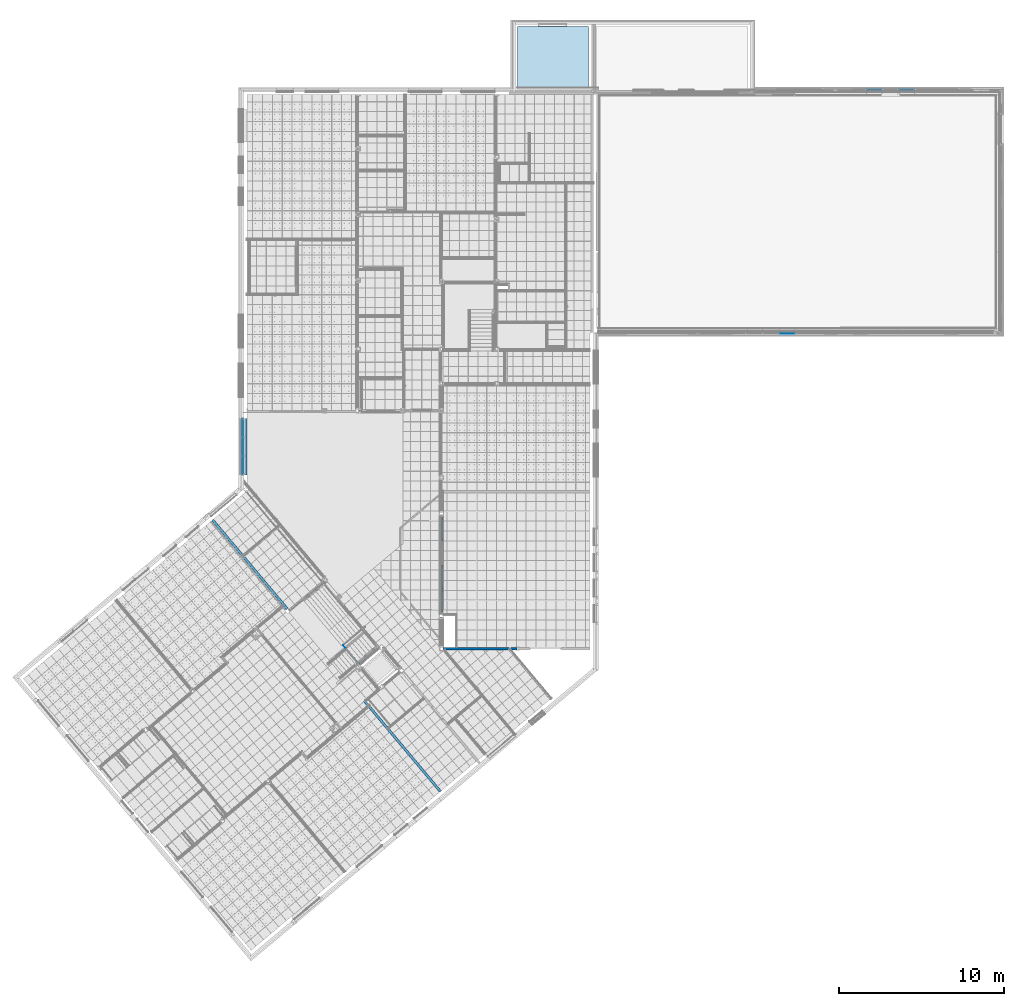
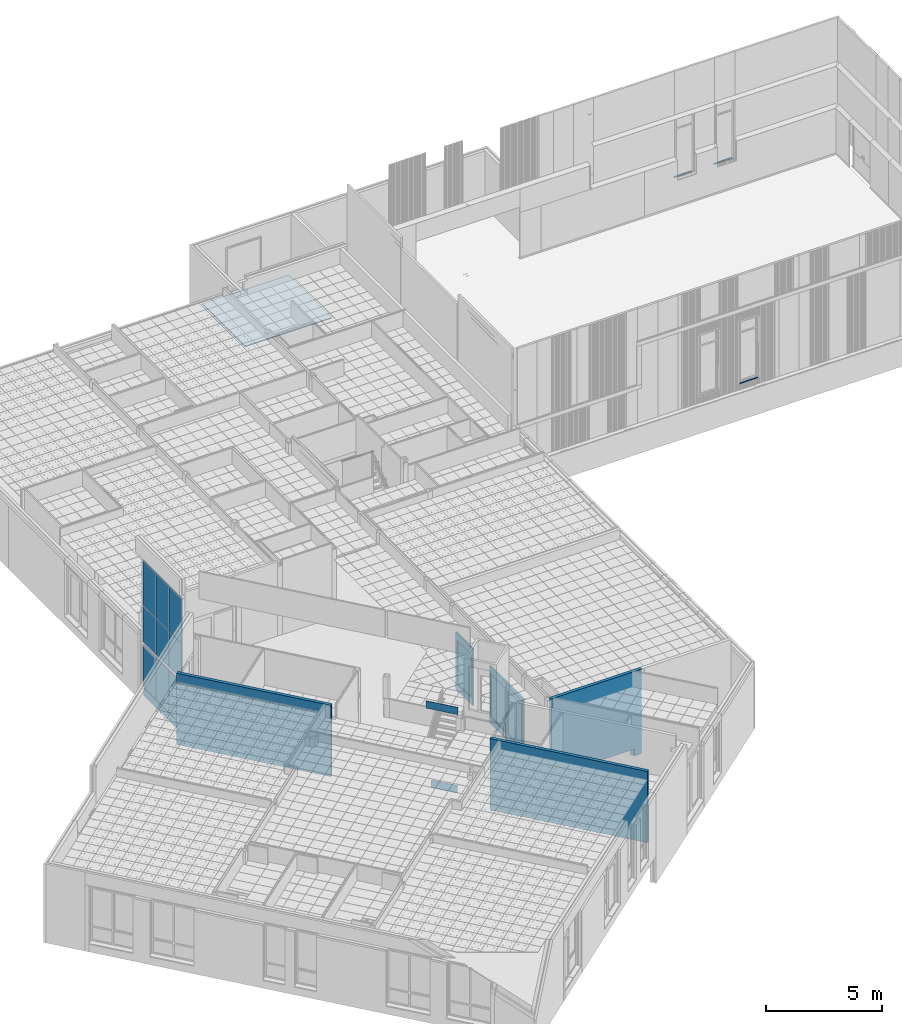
# One storey, part 5 of 338: 12 walls, 9 plates, 3 beams, 1 slab, 3 openings, 1 element without a shape of its own.
"""IFC2X3 building model written with IfcOpenShell, lengths in millimetres."""

from ifc_helpers import new_model, entity, si_unit, converted_unit, derived_unit, money_unit, direction, frame, origin_with_axes, place, context, subcontext, project, spatial, open_shell, faceted_brep, surface_model, source, transform, mapped, material, type_object, type_shapes, element, fill, aggregate, save


model = new_model("IFC2X3")

# Units and contexts
model_context = context("Model", 3, precision=0.01, world=origin_with_axes(), true_north=direction((0.0, 1.0)))
plan_context = context("Plan", 3, precision=0.01, world=origin_with_axes(), true_north=direction((0.0, 1.0)))
body_context = subcontext(model_context, "Body", "Model", "MODEL_VIEW")
ifc_project = project(units=[si_unit("LENGTHUNIT", "METRE", prefix="MILLI"), si_unit("AREAUNIT", "SQUARE_METRE"), si_unit("VOLUMEUNIT", "CUBIC_METRE"), converted_unit("PLANEANGLEUNIT", "DEGREE", entity("IfcPlaneAngleMeasure", 0.0174532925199), si_unit("PLANEANGLEUNIT", "RADIAN"), dimensions=[0, 0, 0, 0, 0, 0, 0]), money_unit("EUR"), converted_unit("TIMEUNIT", "Year", entity("IfcTimeMeasure", 31556926.0), si_unit("TIMEUNIT", "SECOND"), dimensions=[0, 0, 1, 0, 0, 0, 0]), si_unit("MASSUNIT", "GRAM", prefix="KILO"), si_unit("THERMODYNAMICTEMPERATUREUNIT", "DEGREE_CELSIUS"), si_unit("LUMINOUSINTENSITYUNIT", "LUMEN"), si_unit("ENERGYUNIT", "JOULE", prefix="MEGA"), derived_unit("THERMALCONDUCTANCEUNIT", [(si_unit("POWERUNIT", "WATT"), 1), (si_unit("LENGTHUNIT", "METRE"), -1), (si_unit("THERMODYNAMICTEMPERATUREUNIT", "KELVIN"), -1)]), derived_unit("SPECIFICHEATCAPACITYUNIT", [(si_unit("ENERGYUNIT", "JOULE"), 1), (si_unit("MASSUNIT", "GRAM", prefix="KILO"), -1), (si_unit("THERMODYNAMICTEMPERATUREUNIT", "KELVIN"), -1)]), derived_unit("MASSDENSITYUNIT", [(si_unit("MASSUNIT", "GRAM", prefix="KILO"), 1), (si_unit("VOLUMEUNIT", "CUBIC_METRE"), -1)])], contexts=[model_context, plan_context])

# Site, building, storey
site_placement = place(None, origin_with_axes())
site = spatial("IfcSite", under=ifc_project, at=site_placement, Name="Fortuinstraat Woensdrecht", CompositionType="ELEMENT")
building_placement = place(site_placement, origin_with_axes())
building = spatial("IfcBuilding", under=site, at=building_placement, Name="IKC Fortuna", CompositionType="ELEMENT")
storey_placement = place(building_placement, origin_with_axes())
storey = spatial("IfcBuildingStorey", under=building, at=storey_placement, Name="00 begane grond", CompositionType="ELEMENT", Elevation=0.0)

# Beams
ifc_material_1 = material(Name="Metaal - Aluminium")
beam_type = type_object("IfcBeamType", Name="41 Zetwerk SW o 74 x 109", PredefinedType="BEAM")
beam_1_placement = place(storey_placement, frame((54293.4270571, 35582.2966282, 1425.00730789), z_axis=(0.0, 0.0, 1.0), x_axis=(0.0, 1.0, 0.0)))
element("IfcBeam", 1, at=beam_1_placement, inside=storey, type_object=beam_type, material=ifc_material_1, Name="28_Balk_UNP203", ObjectType="BEAM", context=body_context, shape_type="Brep", body=[
    faceted_brep([(55.0192825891, 0.0, -108.36843401), (55.0192825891, 920.0, -108.36843401), (51.000000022, 920.0, -108.369149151), (51.000000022, 0.0, -108.369149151), (55.0072059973, 0.0, -40.4947459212), (55.0072059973, 920.0, -40.4947459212), (51.000000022, 920.0, -39.4217824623), (51.000000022, 920.0, -38.3865556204), (56.0070694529, 920.0, -39.727241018), (56.0194605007, 920.0, -109.368256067), (51.000000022, 920.0, -109.369149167), (51.000000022, 0.0, -109.369149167), (56.0194605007, 0.0, -109.368256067), (56.0070694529, 0.0, -39.727241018), (51.000000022, 0.0, -38.3865556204), (51.000000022, 0.0, -39.4217824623)], [[[0, 1, 2, 3]], [[1, 0, 4, 5]], [[1, 5, 6, 7, 8, 9, 10, 2]], [[2, 10, 11, 3]], [[12, 13, 14, 15, 4, 0, 3, 11]], [[5, 4, 15, 6]], [[7, 6, 15, 14]], [[13, 8, 7, 14]], [[8, 13, 12, 9]], [[9, 12, 11, 10]]]),
])
beam_2_placement = place(storey_placement, frame((52308.4270171, 35582.2966282, 1425.0), z_axis=(0.0, 0.0, 1.0), x_axis=(0.0, 1.0, 0.0)))
element("IfcBeam", 2, at=beam_2_placement, inside=storey, type_object=beam_type, material=ifc_material_1, Name="28_Balk_UNP203", ObjectType="BEAM", context=body_context, shape_type="Brep", body=[
    faceted_brep([(55.0192825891, 0.0, -108.36843401), (55.0192825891, 919.999960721, -108.36843401), (51.000000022, 919.999960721, -108.369149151), (51.000000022, 0.0, -108.369149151), (55.0072059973, 0.0, -40.4947459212), (55.0072059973, 919.999960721, -40.4947459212), (51.000000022, 919.999960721, -39.4217824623), (51.000000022, 919.999960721, -38.3865556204), (56.0070694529, 919.999960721, -39.727241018), (56.0194605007, 919.999960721, -109.368256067), (51.000000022, 919.999960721, -109.369149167), (51.000000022, 0.0, -109.369149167), (56.0194605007, 0.0, -109.368256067), (56.0070694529, 0.0, -39.727241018), (51.000000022, 0.0, -38.3865556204), (51.000000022, 0.0, -39.4217824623)], [[[0, 1, 2, 3]], [[1, 0, 4, 5]], [[1, 5, 6, 7, 8, 9, 10, 2]], [[2, 10, 11, 3]], [[12, 13, 14, 15, 4, 0, 3, 11]], [[5, 4, 15, 6]], [[7, 6, 15, 14]], [[13, 8, 7, 14]], [[8, 13, 12, 9]], [[9, 12, 11, 10]]]),
])
beam_3_placement = place(storey_placement, frame((47043.4270571, 20910.3027434, 1419.99923315), z_axis=(0.0, 0.0, 1.0), x_axis=(0.0, 1.0, 0.0)))
element("IfcBeam", 3, at=beam_3_placement, inside=storey, type_object=beam_type, material=ifc_material_1, Name="28_Balk_UNP203", ObjectType="BEAM", context=body_context, shape_type="Brep", body=[
    faceted_brep([(-56.0061151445, 920.0, -109.368256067), (-56.0061151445, 922.190621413, -109.368256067), (-56.0070694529, 922.190621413, -39.727241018), (-56.0061151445, 920.0, -39.7269854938), (-56.0194605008, 0.0, -109.368256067), (-56.0194605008, 922.190621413, -109.368256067), (-55.9618218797, 920.0, -109.368256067), (-55.9618218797, 0.0, -109.368266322), (-56.0070694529, 0.0, -39.727241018), (-55.9618218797, 920.0, -39.7151255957), (-55.9618218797, 0.0, -39.7151255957)], [[[0, 1, 2, 3]], [[4, 5, 1, 0, 6, 7]], [[1, 5, 2]], [[3, 2, 5, 4, 8]], [[9, 6, 0, 3]], [[7, 6, 9, 10]], [[10, 8, 4, 7]], [[10, 9, 3, 8]]]),
])

# Curtain wall, plates
curtain_wall_type = type_object("IfcCurtainWallType", Name="Curtain Wall Type", PredefinedType="NOTDEFINED")
curtain_wall_placement = place(storey_placement, frame((13569.9121752, 15129.2768159, -0.000250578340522), z_axis=(0.0, 0.0, 1.0), x_axis=(1.0, 0.0, 0.0)))
curtain_wall = element("IfcCurtainWall", 4, at=curtain_wall_placement, inside=storey, type_object=curtain_wall_type, Name="21_Vliesgevel_Vliesgevel")
ifc_material_2 = material(Name="Glas")
plate_type_1 = type_object("IfcPlateType", Name="Main Panel 1095 x 2201 x 33", PredefinedType="CURTAIN_PANEL")
plate_1_placement = place(curtain_wall_placement, frame((0.0, -2253.86266477, 1118.25), z_axis=(0.0, 0.0, 1.0), x_axis=(0.0, 1.0, 0.0)))
plate_1 = element("IfcPlate", 5, at=plate_1_placement, type_object=plate_type_1, material=ifc_material_2, Name="_Vliesgevel - paneel_Paneel-x", ObjectType="CURTAIN_PANEL", context=body_context, shape_type="Brep", body=[
    faceted_brep([(-535.000045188, -16.5, 1113.24999506), (560.000036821, -16.5, 1113.24999506), (560.000036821, 16.5, 1113.24999506), (-535.000045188, 16.5, 1113.24999506), (-535.000045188, -16.5, -1088.25000369), (560.000036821, -16.5, -1088.25000369), (560.000036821, 16.5, -1088.25000369), (-535.000045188, 16.5, -1088.25000369)], [[[0, 1, 2, 3]], [[0, 4, 5, 1]], [[1, 5, 6, 2]], [[3, 2, 6, 7]], [[4, 0, 3, 7]], [[5, 4, 7, 6]]]),
])
plate_2_placement = place(curtain_wall_placement, frame((0.0, 0.0, 1118.25), z_axis=(0.0, 0.0, 1.0), x_axis=(0.0, 1.0, 0.0)))
plate_2 = element("IfcPlate", 6, at=plate_2_placement, type_object=plate_type_1, material=ifc_material_2, Name="_Vliesgevel - paneel_Paneel-x", ObjectType="CURTAIN_PANEL", context=body_context, shape_type="Brep", body=[
    faceted_brep([(-560.000011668, -16.5, 1113.24999506), (535.000003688, -16.5, 1113.24999506), (535.000003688, 16.5, 1113.24999506), (-560.000011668, 16.5, 1113.24999506), (-560.000011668, -16.5, -1088.25000369), (535.000003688, -16.5, -1088.25000369), (535.000003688, 16.5, -1088.25000369), (-560.000011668, 16.5, -1088.25000369)], [[[0, 1, 2, 3]], [[0, 4, 5, 1]], [[1, 5, 6, 2]], [[3, 2, 6, 7]], [[4, 0, 3, 7]], [[5, 4, 7, 6]]]),
])
plate_type_2 = type_object("IfcPlateType", Name="Main Panel 1114 x 2350 x 33", PredefinedType="CURTAIN_PANEL")
plate_3_placement = place(curtain_wall_placement, frame((0.0, -1126.9313115, 5455.0), z_axis=(0.0, 0.0, 1.0), x_axis=(0.0, 1.0, 0.0)))
plate_3 = element("IfcPlate", 7, at=plate_3_placement, type_object=plate_type_2, material=ifc_material_2, Name="_Vliesgevel - paneel_Paneel-x", ObjectType="CURTAIN_PANEL", context=body_context, shape_type="Brep", body=[
    faceted_brep([(-556.931322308, -16.5, 1174.99998808), (556.931299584, -16.5, 1174.99998808), (556.931299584, 16.5, 1174.99998808), (-556.931322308, 16.5, 1174.99998808), (-556.931322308, -16.5, -1174.99998808), (556.931299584, -16.5, -1174.99998808), (556.931299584, 16.5, -1174.99998808), (-556.931322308, 16.5, -1174.99998808)], [[[0, 1, 2, 3]], [[0, 4, 5, 1]], [[1, 5, 6, 2]], [[3, 2, 6, 7]], [[4, 0, 3, 7]], [[5, 4, 7, 6]]]),
])
plate_type_3 = type_object("IfcPlateType", Name="Main Panel 1114 x 2201 x 33", PredefinedType="CURTAIN_PANEL")
plate_4_placement = place(curtain_wall_placement, frame((0.0, -1126.9313115, 1118.25), z_axis=(0.0, 0.0, 1.0), x_axis=(0.0, 1.0, 0.0)))
plate_4 = element("IfcPlate", 8, at=plate_4_placement, type_object=plate_type_3, material=ifc_material_2, Name="_Vliesgevel - paneel_Paneel-x", ObjectType="CURTAIN_PANEL", context=body_context, shape_type="Brep", body=[
    faceted_brep([(-556.931295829, -16.5, 1113.24999506), (556.931306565, -16.5, 1113.24999506), (556.931306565, 16.5, 1113.24999506), (-556.931295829, 16.5, 1113.24999506), (-556.931295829, -16.5, -1088.25000369), (556.931306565, -16.5, -1088.25000369), (556.931306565, 16.5, -1088.25000369), (-556.931295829, 16.5, -1088.25000369)], [[[0, 1, 2, 3]], [[0, 4, 5, 1]], [[1, 5, 6, 2]], [[3, 2, 6, 7]], [[4, 0, 3, 7]], [[5, 4, 7, 6]]]),
])
plate_type_4 = type_object("IfcPlateType", Name="Main Panel 1095 x 1904 x 33", PredefinedType="CURTAIN_PANEL")
plate_5_placement = place(curtain_wall_placement, frame((0.0, 0.0, 3317.75), z_axis=(0.0, 0.0, 1.0), x_axis=(0.0, 1.0, 0.0)))
plate_5 = element("IfcPlate", 9, at=plate_5_placement, type_object=plate_type_4, material=ifc_material_2, Name="_Vliesgevel - paneel_Paneel-x", ObjectType="CURTAIN_PANEL", context=body_context, shape_type="Brep", body=[
    faceted_brep([(-560.000000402, -16.5, 952.249987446), (535.000010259, -16.5, 952.249987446), (535.000010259, 16.5, 952.249987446), (-560.000000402, 16.5, 952.249987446), (-560.000000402, -16.5, -952.249987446), (535.000010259, -16.5, -952.249987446), (535.000010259, 16.5, -952.249987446), (-560.000000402, 16.5, -952.249987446)], [[[0, 1, 2, 3]], [[0, 4, 5, 1]], [[1, 5, 6, 2]], [[3, 2, 6, 7]], [[4, 0, 3, 7]], [[5, 4, 7, 6]]]),
])
plate_6_placement = place(curtain_wall_placement, frame((0.0, -2253.86263296, 3317.75), z_axis=(0.0, 0.0, 1.0), x_axis=(0.0, 1.0, 0.0)))
plate_6 = element("IfcPlate", 10, at=plate_6_placement, type_object=plate_type_4, material=ifc_material_2, Name="_Vliesgevel - paneel_Paneel-x", ObjectType="CURTAIN_PANEL", context=body_context, shape_type="Brep", body=[
    faceted_brep([(-534.999984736, -16.5, 952.249987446), (559.999997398, -16.5, 952.249987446), (559.999997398, 16.5, 952.249987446), (-534.999984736, 16.5, 952.249987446), (-535.000041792, -16.5, -952.249987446), (559.999997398, -16.5, -952.249987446), (559.999997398, 16.5, -952.249987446), (-535.000041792, 16.5, -952.249987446)], [[[0, 1, 2, 3]], [[0, 4, 5, 1]], [[1, 5, 6, 2]], [[3, 2, 6, 7]], [[4, 0, 3, 7]], [[5, 4, 7, 6]]]),
])
plate_type_5 = type_object("IfcPlateType", Name="Main Panel 1114 x 1904 x 33", PredefinedType="CURTAIN_PANEL")
plate_7_placement = place(curtain_wall_placement, frame((0.0, -1126.9313115, 3317.75), z_axis=(0.0, 0.0, 1.0), x_axis=(0.0, 1.0, 0.0)))
plate_7 = element("IfcPlate", 11, at=plate_7_placement, type_object=plate_type_5, material=ifc_material_2, Name="_Vliesgevel - paneel_Paneel-x", ObjectType="CURTAIN_PANEL", context=body_context, shape_type="Brep", body=[
    faceted_brep([(-556.931310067, -16.5, 952.249987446), (556.93129895, -16.5, 952.249987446), (556.93129895, 16.5, 952.249987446), (-556.931310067, 16.5, 952.249987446), (-556.931310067, -16.5, -952.249987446), (556.93129895, -16.5, -952.249987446), (556.93129895, 16.5, -952.249987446), (-556.931310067, 16.5, -952.249987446)], [[[0, 1, 2, 3]], [[0, 4, 5, 1]], [[1, 5, 6, 2]], [[3, 2, 6, 7]], [[4, 0, 3, 7]], [[5, 4, 7, 6]]]),
])
plate_type_6 = type_object("IfcPlateType", Name="Main Panel 1095 x 2350 x 33", PredefinedType="CURTAIN_PANEL")
plate_8_placement = place(curtain_wall_placement, frame((0.0, -2253.8626213, 5455.0), z_axis=(0.0, 0.0, 1.0), x_axis=(0.0, 1.0, 0.0)))
plate_8 = element("IfcPlate", 12, at=plate_8_placement, type_object=plate_type_6, material=ifc_material_2, Name="_Vliesgevel - paneel_Paneel-x", ObjectType="CURTAIN_PANEL", context=body_context, shape_type="Brep", body=[
    faceted_brep([(-534.999986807, -16.5, 1174.99998808), (559.999986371, -16.5, 1174.99998808), (559.999986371, 16.5, 1174.99998808), (-534.999986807, 16.5, 1174.99998808), (-534.999986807, -16.5, -1174.99998808), (559.999986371, -16.5, -1174.99998808), (559.999986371, 16.5, -1174.99998808), (-534.999986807, 16.5, -1174.99998808)], [[[0, 1, 2, 3]], [[0, 4, 5, 1]], [[1, 5, 6, 2]], [[3, 2, 6, 7]], [[4, 0, 3, 7]], [[5, 4, 7, 6]]]),
])
plate_9_placement = place(curtain_wall_placement, frame((0.0, 0.0, 5455.0), z_axis=(0.0, 0.0, 1.0), x_axis=(0.0, 1.0, 0.0)))
plate_9 = element("IfcPlate", 13, at=plate_9_placement, type_object=plate_type_6, material=ifc_material_2, Name="_Vliesgevel - paneel_Paneel-x", ObjectType="CURTAIN_PANEL", context=body_context, shape_type="Brep", body=[
    faceted_brep([(-560.000009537, -16.5, 1174.99998808), (534.999998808, -16.5, 1174.99998808), (534.999998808, 16.5, 1174.99998808), (-560.000009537, 16.5, 1174.99998808), (-560.000009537, -16.5, -1174.99998808), (534.999998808, -16.5, -1174.99998808), (534.999998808, 16.5, -1174.99998808), (-560.000009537, 16.5, -1174.99998808)], [[[0, 1, 2, 3]], [[0, 4, 5, 1]], [[1, 5, 6, 2]], [[3, 2, 6, 7]], [[4, 0, 3, 7]], [[5, 4, 7, 6]]]),
])
aggregate(curtain_wall, [plate_1, plate_3, plate_2, plate_4, plate_5, plate_7, plate_6, plate_8, plate_9])

# Slab
ifc_material_3 = material(Name="Steen - Keramisch")
slab_type = type_object("IfcSlabType", Name="Steen - Keramisch 50", PredefinedType="NOTDEFINED")
slab_placement = place(storey_placement, frame((30205.434124, 35776.2966283, -187.5), z_axis=(0.0, 0.0, 1.0), x_axis=(1.0, 0.0, 0.0)))
element("IfcSlab", 14, at=slab_placement, inside=storey, type_object=slab_type, material=ifc_material_3, Name="23_Vloer_Bestrating", PredefinedType="NOTDEFINED", context=body_context, shape_type="Brep", body=[
    faceted_brep([(20.0008092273, 9.65224649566, 0.0), (4327.99293316, 9.65224649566, 0.0), (4327.99293316, 3700.0, 0.0), (20.000004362, 3700.0, 0.0), (20.0008092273, 9.65224649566, -50.0), (4327.99293316, 9.65224649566, -50.0), (4327.99293316, 3700.0, -50.0), (20.000004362, 3700.0, -50.0)], [[[0, 1, 2, 3]], [[4, 5, 1, 0]], [[5, 6, 2, 1]], [[3, 2, 6, 7]], [[7, 4, 0, 3]], [[7, 6, 5, 4]]]),
])

# Walls
ifc_material_4 = material(Name="Steen - Kalkzandsteen C")
wall_type_1 = type_object("IfcWallType", Name="Steen - Kalkzandsteen C 150", PredefinedType="NOTDEFINED")
wall_1_placement = place(storey_placement, frame((16260.0779945, 4167.87393485, 1360.0), z_axis=(0.0, 0.0, 1.0), x_axis=(-0.642787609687, 0.766044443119, 0.0)))
element("IfcWall", 15, at=wall_1_placement, inside=storey, type_object=wall_type_1, material=ifc_material_4, Name="22_Wand_KZST", context=body_context, shape_type="Brep", body=[
    faceted_brep([(0.0, 75.0, 0.0), (7045.0, 75.0, 0.0), (7045.0, -75.0, 0.0), (0.0, -75.0, 0.0), (0.0, 75.0, 3740.0), (7045.0, 75.0, 3740.0), (7045.0, -75.0, 3740.0), (0.0, -75.0, 3740.0)], [[[0, 1, 2, 3]], [[4, 5, 1, 0]], [[2, 1, 5, 6]], [[3, 2, 6, 7]], [[4, 0, 3, 7]], [[7, 6, 5, 4]]]),
])
wall_2_placement = place(storey_placement, frame((25551.5728925, -6905.29849043, 1360.0), z_axis=(0.0, 0.0, 1.0), x_axis=(-0.642787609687, 0.766044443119, 0.0)))
element("IfcWall", 16, at=wall_2_placement, inside=storey, type_object=wall_type_1, material=ifc_material_4, Name="22_Wand_KZST", context=body_context, shape_type="Brep", body=[
    faceted_brep([(0.0, 75.0, 0.0), (7200.00350139, 75.0, 0.0), (7200.00350139, -75.0, 0.0), (0.0, -75.0, 0.0), (0.0, 75.0, 3740.0), (7200.00350139, 75.0, 3740.0), (7200.00350139, -75.0, 3740.0), (0.0, -75.0, 3740.0)], [[[0, 1, 2, 3]], [[4, 5, 1, 0]], [[2, 1, 5, 6]], [[3, 2, 6, 7]], [[4, 0, 3, 7]], [[7, 6, 5, 4]]]),
])
wall_3_placement = place(storey_placement, frame((30197.4349765, 1827.29662827, -835.0), z_axis=(0.0, 0.0, 1.0), x_axis=(-1.0, 0.0, 0.0)))
element("IfcWall", 17, at=wall_3_placement, inside=storey, type_object=wall_type_1, material=ifc_material_4, Name="22_Wand_KZST", context=body_context, shape_type="Brep", body=[
    faceted_brep([(4476.99999998, 150.0, 350.00000447), (345.952258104, 150.0, 350.000000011), (345.952258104, 150.0, 0.0), (0.0, 150.0, 0.0), (0.0, 150.0, 4424.9999996), (4476.99999998, 150.0, 4424.9999996), (4476.99999998, 150.0, 745.0), (541.763358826, 150.0, 745.0), (541.763358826, 150.0, 480.0), (4476.99999998, 150.0, 480.0), (4476.99999998, 0.0, 350.00000447), (471.817202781, 0.0, 350.000000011), (471.817202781, 0.0, 0.0), (0.0, 0.0, 0.0), (0.0, 0.0, 4424.9999996), (4476.99999998, 0.0, 4424.9999996), (4476.99999998, 149.710904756, 480.0), (4476.99999998, 149.710904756, 745.0)], [[[0, 1, 2, 3, 4, 5, 6, 7, 8, 9]], [[10, 11, 1, 0]], [[12, 2, 1, 11]], [[3, 2, 12, 13]], [[4, 3, 13, 14]], [[5, 4, 14, 15]], [[15, 10, 0, 9, 16, 17, 6, 5]], [[6, 17, 7]], [[8, 7, 17, 16]], [[8, 16, 9]], [[12, 11, 10, 15, 14, 13]]]),
])

# Walls, opening
ifc_material_5 = material(Name="ALG - BINNENAFWERKING")
wall_type_2 = type_object("IfcWallType", Name="ALG - BINNENAFWERKING 80", PredefinedType="USERDEFINED")
wall_4_placement = place(storey_placement, frame((25620.4349347, 9724.79662827, -745.0), z_axis=(0.0, 0.0, 1.0), x_axis=(0.0, -1.0, 0.0)))
wall_4 = element("IfcWall", 18, at=wall_4_placement, inside=storey, type_object=wall_type_2, material=ifc_material_5, Name="22_Schuifwand_panelenwand", ObjectType="MOVABLE", context=body_context, shape_type="Brep", body=[
    faceted_brep([(1440.0, 0.0, 0.0), (1440.0, 0.0, 2992.0), (0.0, 0.0, 2992.0), (0.0, 0.0, 0.0), (1340.0, 0.0, 350.0), (100.0, 0.0, 350.0), (100.0, 0.0, 2642.0), (1340.0, 0.0, 2642.0), (1440.0, 80.0, 0.0), (1440.0, 80.0, 2992.0), (0.0, 80.0, 2992.0), (0.0, 80.0, 0.0), (1340.0, 80.0, 350.0), (100.0, 80.0, 350.0), (100.0, 80.0, 2642.0), (1340.0, 80.0, 2642.0)], [[[0, 1, 2, 3], [4, 5, 6, 7]], [[8, 9, 1, 0]], [[1, 9, 10, 2]], [[11, 3, 2, 10]], [[8, 0, 3, 11]], [[12, 13, 5, 4]], [[13, 14, 6, 5]], [[14, 15, 7, 6]], [[15, 12, 4, 7]], [[9, 8, 11, 10], [12, 15, 14, 13]]]),
])
opening_1_placement = place(wall_4_placement, frame((720.0, 0.0, 350.0), z_axis=(0.0, 0.0, 1.0), x_axis=(1.0, 0.0, 0.0)))
opening_1 = element("IfcOpeningElement", 19, at=opening_1_placement, cuts=wall_4, Name="22_Schuifwand_P-03", context=body_context, shape_type="Brep", body=[
    faceted_brep([(-620.0, -80.0, 0.0), (-620.0, -80.0, 2292.0), (-620.0, 160.0, 2292.0), (-620.0, 160.0, 0.0), (620.0, -80.0, 0.0), (620.0, -80.0, 2292.0), (620.0, 160.0, 2292.0), (620.0, 160.0, 0.0)], [[[0, 1, 2, 3]], [[0, 4, 5, 1]], [[1, 5, 6, 2]], [[3, 2, 6, 7]], [[4, 0, 3, 7]], [[5, 4, 7, 6]]]),
])
wall_type_3 = type_object("IfcWallType", Name="R1 25", PredefinedType="USERDEFINED")
shared_shape = source(origin_with_axes(), body_context, "Body", "SurfaceModel", [
    faceted_brep([(-600.0, -80.0, 2272.0), (-600.0, 0.0, 2272.0), (-620.0, 0.0, 2272.0), (-620.0, -80.0, 2272.0), (-600.0, -80.0, 20.0), (-600.0, 0.0, 20.0), (-620.0, 0.0, 20.0), (-620.0, -80.0, 20.0)], [[[0, 1, 2, 3]], [[4, 5, 1, 0]], [[1, 5, 6, 2]], [[3, 2, 6, 7]], [[0, 3, 7, 4]], [[7, 6, 5, 4]]]),
    faceted_brep([(600.0, -80.0, 20.0), (600.0, 0.0, 20.0), (620.0, 0.0, 20.0), (620.0, -80.0, 20.0), (600.0, -80.0, 2272.0), (600.0, 0.0, 2272.0), (620.0, 0.0, 2272.0), (620.0, -80.0, 2272.0)], [[[0, 1, 2, 3]], [[4, 5, 1, 0]], [[1, 5, 6, 2]], [[3, 2, 6, 7]], [[0, 3, 7, 4]], [[7, 6, 5, 4]]]),
    faceted_brep([(-600.0, -80.0, 20.0), (-600.0, 0.0, 20.0), (-620.0, 0.0, 20.0), (-620.0, -80.0, 20.0), (600.0, -80.0, 20.0), (600.0, 0.0, 20.0), (620.0, 0.0, 20.0), (620.0, 0.0, 0.0), (-620.0, 0.0, 0.0), (-620.0, -80.0, 0.0), (620.0, -80.0, 0.0), (620.0, -80.0, 20.0)], [[[0, 1, 2, 3]], [[4, 5, 1, 0]], [[1, 5, 6, 7, 8, 2]], [[3, 2, 8, 9]], [[0, 3, 9, 10, 11, 4]], [[11, 6, 5, 4]], [[10, 7, 6, 11]], [[9, 8, 7, 10]]]),
    faceted_brep([(600.0, -80.0, 2272.0), (600.0, 0.0, 2272.0), (620.0, 0.0, 2272.0), (620.0, -80.0, 2272.0), (-600.0, -80.0, 2272.0), (-600.0, 0.0, 2272.0), (-620.0, 0.0, 2272.0), (-620.0, 0.0, 2292.0), (620.0, 0.0, 2292.0), (620.0, -80.0, 2292.0), (-620.0, -80.0, 2292.0), (-620.0, -80.0, 2272.0)], [[[0, 1, 2, 3]], [[4, 5, 1, 0]], [[1, 5, 6, 7, 8, 2]], [[3, 2, 8, 9]], [[0, 3, 9, 10, 11, 4]], [[11, 6, 5, 4]], [[10, 7, 6, 11]], [[9, 8, 7, 10]]]),
    surface_model("IfcShellBasedSurfaceModel", [(-600.0, -62.0, 20.0), (600.0, -62.0, 20.0), (600.0, -62.0, 2272.0), (-600.0, -62.0, 2272.0)], [open_shell([[[0, 1, 2, 3]]])]),
    surface_model("IfcShellBasedSurfaceModel", [(-600.0, -42.0, 20.0), (-600.0, -42.0, 2272.0), (600.0, -42.0, 2272.0), (600.0, -42.0, 20.0)], [open_shell([[[0, 1, 2, 3]]])]),
])
type_shapes(wall_type_3, [shared_shape])
wall_5_placement = place(opening_1_placement, frame((620.0, 0.0, 0.0), z_axis=(0.0, 0.0, 1.0), x_axis=(-1.0, 0.0, 0.0)))
wall_5 = element("IfcWall", 20, at=wall_5_placement, inside=storey, type_object=wall_type_3, Name="22_Schuifwand_P-03", ObjectType="MOVABLE", context=body_context, shape_type="MappedRepresentation", body=[
    mapped(shared_shape, transform((620.0, 0.0, 0.0))),
])
fill(opening_1, wall_5)

wall_6_placement = place(storey_placement, frame((25620.4349347, 6824.79662827, -745.0), z_axis=(0.0, 0.0, 1.0), x_axis=(0.0, -1.0, 0.0)))
wall_6 = element("IfcWall", 21, at=wall_6_placement, inside=storey, type_object=wall_type_2, material=ifc_material_5, Name="22_Schuifwand_panelenwand", ObjectType="MOVABLE", context=body_context, shape_type="Brep", body=[
    faceted_brep([(1440.0, 0.0, 0.0), (1440.0, 0.0, 2992.0), (0.0, 0.0, 2992.0), (0.0, 0.0, 0.0), (1340.0, 0.0, 350.0), (100.0, 0.0, 350.0), (100.0, 0.0, 2642.0), (1340.0, 0.0, 2642.0), (1440.0, 80.0, 0.0), (1440.0, 80.0, 2992.0), (0.0, 80.0, 2992.0), (0.0, 80.0, 0.0), (1340.0, 80.0, 350.0), (100.0, 80.0, 350.0), (100.0, 80.0, 2642.0), (1340.0, 80.0, 2642.0)], [[[0, 1, 2, 3], [4, 5, 6, 7]], [[8, 9, 1, 0]], [[1, 9, 10, 2]], [[11, 3, 2, 10]], [[8, 0, 3, 11]], [[12, 13, 5, 4]], [[13, 14, 6, 5]], [[14, 15, 7, 6]], [[15, 12, 4, 7]], [[9, 8, 11, 10], [12, 15, 14, 13]]]),
])
opening_2_placement = place(wall_6_placement, frame((720.0, 0.0, 350.0), z_axis=(0.0, 0.0, 1.0), x_axis=(1.0, 0.0, 0.0)))
opening_2 = element("IfcOpeningElement", 22, at=opening_2_placement, cuts=wall_6, Name="22_Schuifwand_P-02", context=body_context, shape_type="Brep", body=[
    faceted_brep([(-620.0, -80.0, 0.0), (-620.0, -80.0, 2292.0), (-620.0, 160.0, 2292.0), (-620.0, 160.0, 0.0), (620.0, -80.0, 0.0), (620.0, -80.0, 2292.0), (620.0, 160.0, 2292.0), (620.0, 160.0, 0.0)], [[[0, 1, 2, 3]], [[0, 4, 5, 1]], [[1, 5, 6, 2]], [[3, 2, 6, 7]], [[4, 0, 3, 7]], [[5, 4, 7, 6]]]),
])
wall_7_placement = place(opening_2_placement, frame((620.0, 0.0, 0.0), z_axis=(0.0, 0.0, 1.0), x_axis=(-1.0, 0.0, 0.0)))
wall_7 = element("IfcWall", 23, at=wall_7_placement, inside=storey, type_object=wall_type_3, Name="22_Schuifwand_P-02", ObjectType="MOVABLE", context=body_context, shape_type="MappedRepresentation", body=[
    mapped(shared_shape, transform((620.0, 0.0, 0.0))),
])
fill(opening_2, wall_7)

wall_8_placement = place(storey_placement, frame((25620.4349347, 5374.79662827, -745.0), z_axis=(0.0, 0.0, 1.0), x_axis=(0.0, -1.0, 0.0)))
wall_8 = element("IfcWall", 24, at=wall_8_placement, inside=storey, type_object=wall_type_2, material=ifc_material_5, Name="22_Schuifwand_panelenwand", ObjectType="MOVABLE", context=body_context, shape_type="Brep", body=[
    faceted_brep([(1440.0, 0.0, 0.0), (1440.0, 0.0, 2992.0), (0.0, 0.0, 2992.0), (0.0, 0.0, 0.0), (1340.0, 0.0, 350.0), (100.0, 0.0, 350.0), (100.0, 0.0, 2642.0), (1340.0, 0.0, 2642.0), (1440.0, 80.0, 0.0), (1440.0, 80.0, 2992.0), (0.0, 80.0, 2992.0), (0.0, 80.0, 0.0), (1340.0, 80.0, 350.0), (100.0, 80.0, 350.0), (100.0, 80.0, 2642.0), (1340.0, 80.0, 2642.0)], [[[0, 1, 2, 3], [4, 5, 6, 7]], [[8, 9, 1, 0]], [[1, 9, 10, 2]], [[11, 3, 2, 10]], [[8, 0, 3, 11]], [[12, 13, 5, 4]], [[13, 14, 6, 5]], [[14, 15, 7, 6]], [[15, 12, 4, 7]], [[9, 8, 11, 10], [12, 15, 14, 13]]]),
])
opening_3_placement = place(wall_8_placement, frame((720.0, 0.0, 350.0), z_axis=(0.0, 0.0, 1.0), x_axis=(1.0, 0.0, 0.0)))
opening_3 = element("IfcOpeningElement", 25, at=opening_3_placement, cuts=wall_8, Name="22_Schuifwand_P-02", context=body_context, shape_type="Brep", body=[
    faceted_brep([(-620.0, -80.0, 0.0), (-620.0, -80.0, 2292.0), (-620.0, 160.0, 2292.0), (-620.0, 160.0, 0.0), (620.0, -80.0, 0.0), (620.0, -80.0, 2292.0), (620.0, 160.0, 2292.0), (620.0, 160.0, 0.0)], [[[0, 1, 2, 3]], [[0, 4, 5, 1]], [[1, 5, 6, 2]], [[3, 2, 6, 7]], [[4, 0, 3, 7]], [[5, 4, 7, 6]]]),
])
wall_9_placement = place(opening_3_placement, frame((620.0, 0.0, 0.0), z_axis=(0.0, 0.0, 1.0), x_axis=(-1.0, 0.0, 0.0)))
wall_9 = element("IfcWall", 26, at=wall_9_placement, inside=storey, type_object=wall_type_3, Name="22_Schuifwand_P-02", ObjectType="MOVABLE", context=body_context, shape_type="MappedRepresentation", body=[
    mapped(shared_shape, transform((620.0, 0.0, 0.0))),
])
fill(opening_3, wall_9)

# Walls
wall_type_4 = type_object("IfcWallType", Name="Steen - Kalkzandsteen C 214", PredefinedType="NOTDEFINED")
wall_10_placement = place(storey_placement, frame((13595.4349765, 15702.2768159, -485.0), z_axis=(0.0, 0.0, 1.0), x_axis=(0.0, -1.0, 0.0)))
element("IfcWall", 27, at=wall_10_placement, inside=storey, type_object=wall_type_4, material=ifc_material_4, Name="21_Wand_KZST", context=body_context, shape_type="Brep", body=[
    faceted_brep([(0.0, 0.0, 0.0), (0.0, 214.0, 0.0), (3401.21121448, 214.0, 0.0), (3401.21121448, 0.0, 0.0), (0.0, 0.0, 395.0), (0.0, 214.0, 395.0), (3401.21121448, 214.0, 395.0), (3401.21121448, 0.0, 395.0)], [[[0, 1, 2, 3]], [[4, 5, 1, 0]], [[1, 5, 6, 2]], [[7, 3, 2, 6]], [[4, 0, 3, 7]], [[5, 4, 7, 6]]]),
])
ifc_material_6 = material(Name="Gipsplaat")
wall_type_5 = type_object("IfcWallType", Name="Gipsplaat 13", PredefinedType="NOTDEFINED")
wall_11_placement = place(storey_placement, frame((19664.4415118, 1962.03421533, 5065.5), z_axis=(0.0, 0.0, 1.0), x_axis=(0.642787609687, -0.766044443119, 0.0)))
element("IfcWall", 28, at=wall_11_placement, inside=storey, type_object=wall_type_5, material=ifc_material_6, Name="22_Wand_Binnenwand", context=body_context, shape_type="Brep", body=[
    faceted_brep([(0.0, 0.0, 0.0), (1471.44605267, 0.0, 0.0), (1471.44605267, -12.5, 0.0), (0.0, -12.5, 0.0), (0.0, 0.0, 384.5), (1471.44605267, 0.0, 384.5), (1471.44605267, -12.5, 384.5), (0.0, -12.5, 384.5)], [[[0, 1, 2, 3]], [[4, 5, 1, 0]], [[2, 1, 5, 6]], [[3, 2, 6, 7]], [[4, 0, 3, 7]], [[7, 6, 5, 4]]]),
])
wall_12_placement = place(storey_placement, frame((19810.3407445, 1788.15828054, 965.0), z_axis=(0.0, 0.0, 1.0), x_axis=(0.642787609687, -0.766044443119, 0.0)))
element("IfcWall", 29, at=wall_12_placement, inside=storey, type_object=wall_type_5, material=ifc_material_6, Name="22_Wand_Binnenwand", context=body_context, shape_type="Brep", body=[
    faceted_brep([(0.0, 0.0, 0.0), (1216.99008786, 0.0, 0.0), (1216.99008786, -12.5, 0.0), (0.0, -12.5, 0.0), (0.0, 0.0, 395.0), (1216.99008786, 0.0, 395.0), (1216.99008786, -12.5, 395.0), (0.0, -12.5, 395.0)], [[[0, 1, 2, 3]], [[4, 5, 1, 0]], [[2, 1, 5, 6]], [[3, 2, 6, 7]], [[4, 0, 3, 7]], [[7, 6, 5, 4]]]),
])

save(model, "model.ifc")
